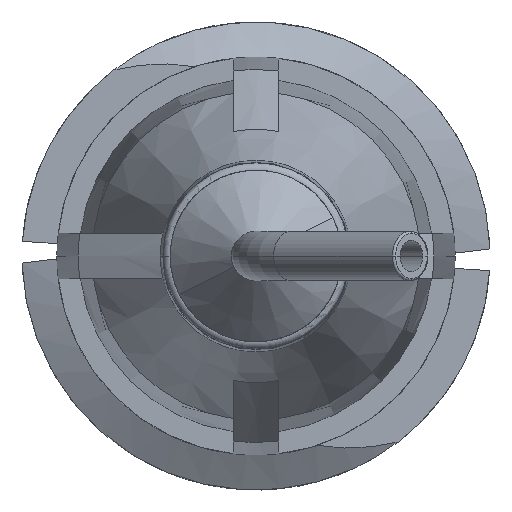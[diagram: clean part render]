
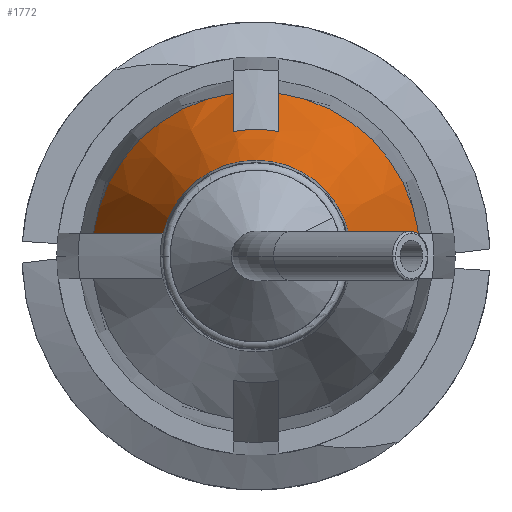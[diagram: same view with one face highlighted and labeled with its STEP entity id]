
A CAD part, front view. The second image highlights one B-rep face of the part: STEP entity #1772.
In plain terms, the highlighted conical face has half-angle 20 degrees and reference radius 2.745 mm.
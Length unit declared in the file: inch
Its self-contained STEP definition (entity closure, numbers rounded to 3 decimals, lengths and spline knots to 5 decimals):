
#18 = CONICAL_SURFACE ( 'NONE', #4683, 0.10808, 0.349 ) ;
#111 = B_SPLINE_CURVE_WITH_KNOTS ( 'NONE', 3,
 ( #3627, #1119, #1428, #1837 ),
 .UNSPECIFIED., .F., .F.,
 ( 4, 4 ),
 ( 0.00343, 0.00527 ),
 .UNSPECIFIED. ) ;
#212 = CARTESIAN_POINT ( 'NONE',  ( 0.09185, -0.44732, 0.015 ) ) ;
#215 = CIRCLE ( 'NONE', #4729, 0.10808 ) ;
#228 = ORIENTED_EDGE ( 'NONE', *, *, #1013, .F. ) ;
#248 = CARTESIAN_POINT ( 'NONE',  ( -0.015, -0.47395, 0.08198 ) ) ;
#252 = DIRECTION ( 'NONE',  ( -1., 0., 0. ) ) ;
#370 = CARTESIAN_POINT ( 'NONE',  ( -0.10703, -0.406, 0.015 ) ) ;
#373 = AXIS2_PLACEMENT_3D ( 'NONE', #2130, #1100, #3310 ) ;
#568 = AXIS2_PLACEMENT_3D ( 'NONE', #1761, #607, #4603 ) ;
#571 = CARTESIAN_POINT ( 'NONE',  ( 0.06119, -0.52985, 0.015 ) ) ;
#590 = CARTESIAN_POINT ( 'NONE',  ( 0.07664, -0.48863, 0.015 ) ) ;
#601 = DIRECTION ( 'NONE',  ( 0., 1., 0. ) ) ;
#607 = DIRECTION ( 'NONE',  ( 0., 1., 0. ) ) ;
#668 = CARTESIAN_POINT ( 'NONE',  ( -0.06119, -0.52985, 0.015 ) ) ;
#677 = CARTESIAN_POINT ( 'NONE',  ( -0.015, -0.406, 0.10703 ) ) ;
#678 = ORIENTED_EDGE ( 'NONE', *, *, #2118, .F. ) ;
#743 = CARTESIAN_POINT ( 'NONE',  ( 0.06119, -0.52985, 0.015 ) ) ;
#775 = CARTESIAN_POINT ( 'NONE',  ( 0.015, -0.42866, 0.0987 ) ) ;
#792 = CIRCLE ( 'NONE', #568, 0.08335 ) ;
#994 = CARTESIAN_POINT ( 'NONE',  ( 0.015, -0.47395, 0.08198 ) ) ;
#1013 = EDGE_CURVE ( 'NONE', #1844, #2535, #215, .T. ) ;
#1100 = DIRECTION ( 'NONE',  ( 0., 1., 0. ) ) ;
#1119 = CARTESIAN_POINT ( 'NONE',  ( -0.015, -0.42866, 0.0987 ) ) ;
#1190 = CARTESIAN_POINT ( 'NONE',  ( 0.10703, -0.406, 0.015 ) ) ;
#1284 = CARTESIAN_POINT ( 'NONE',  ( -0.06119, -0.52985, 0.015 ) ) ;
#1407 = DIRECTION ( 'NONE',  ( 0., 1., 0. ) ) ;
#1428 = CARTESIAN_POINT ( 'NONE',  ( -0.015, -0.45131, 0.09036 ) ) ;
#1510 = CARTESIAN_POINT ( 'NONE',  ( -0.09185, -0.44732, 0.015 ) ) ;
#1526 = B_SPLINE_CURVE_WITH_KNOTS ( 'NONE', 3,
 ( #668, #3942, #1510, #2972 ),
 .UNSPECIFIED., .F., .F.,
 ( 4, 4 ),
 ( 0.00282, 0.00617 ),
 .UNSPECIFIED. ) ;
#1745 = DIRECTION ( 'NONE',  ( 0., 1., 0. ) ) ;
#1760 = CARTESIAN_POINT ( 'NONE',  ( 0.015, -0.47395, 0.08198 ) ) ;
#1761 = CARTESIAN_POINT ( 'NONE',  ( 0., -0.47395, 0. ) ) ;
#1772 = ADVANCED_FACE ( 'NONE', ( #2329 ), #18, .T. ) ;
#1837 = CARTESIAN_POINT ( 'NONE',  ( -0.015, -0.47395, 0.08198 ) ) ;
#1844 = VERTEX_POINT ( 'NONE', #370 ) ;
#2118 = EDGE_CURVE ( 'NONE', #2442, #3405, #792, .T. ) ;
#2130 = CARTESIAN_POINT ( 'NONE',  ( 0., -0.52985, 0. ) ) ;
#2230 = B_SPLINE_CURVE_WITH_KNOTS ( 'NONE', 3,
 ( #571, #590, #212, #3130 ),
 .UNSPECIFIED., .F., .F.,
 ( 4, 4 ),
 ( 0.00282, 0.00617 ),
 .UNSPECIFIED. ) ;
#2329 = FACE_OUTER_BOUND ( 'NONE', #2806, .T. ) ;
#2368 = EDGE_CURVE ( 'NONE', #3428, #4462, #2230, .T. ) ;
#2378 = VERTEX_POINT ( 'NONE', #2704 ) ;
#2442 = VERTEX_POINT ( 'NONE', #248 ) ;
#2464 = DIRECTION ( 'NONE',  ( -1., 0., 0. ) ) ;
#2484 = VERTEX_POINT ( 'NONE', #1284 ) ;
#2535 = VERTEX_POINT ( 'NONE', #677 ) ;
#2704 = CARTESIAN_POINT ( 'NONE',  ( 0.015, -0.406, 0.10703 ) ) ;
#2806 = EDGE_LOOP ( 'NONE', ( #4595, #4583, #2905, #4647, #4036, #678, #3018, #228 ) ) ;
#2882 = EDGE_CURVE ( 'NONE', #3405, #2378, #3990, .T. ) ;
#2905 = ORIENTED_EDGE ( 'NONE', *, *, #2368, .T. ) ;
#2942 = EDGE_CURVE ( 'NONE', #2484, #1844, #1526, .T. ) ;
#2972 = CARTESIAN_POINT ( 'NONE',  ( -0.10703, -0.406, 0.015 ) ) ;
#3018 = ORIENTED_EDGE ( 'NONE', *, *, #3343, .F. ) ;
#3130 = CARTESIAN_POINT ( 'NONE',  ( 0.10703, -0.406, 0.015 ) ) ;
#3310 = DIRECTION ( 'NONE',  ( -1., 0., 0. ) ) ;
#3339 = CARTESIAN_POINT ( 'NONE',  ( 0.015, -0.45131, 0.09036 ) ) ;
#3343 = EDGE_CURVE ( 'NONE', #2535, #2442, #111, .T. ) ;
#3405 = VERTEX_POINT ( 'NONE', #1760 ) ;
#3428 = VERTEX_POINT ( 'NONE', #743 ) ;
#3500 = CIRCLE ( 'NONE', #373, 0.063 ) ;
#3513 = DIRECTION ( 'NONE',  ( -1., 0., 0. ) ) ;
#3520 = CARTESIAN_POINT ( 'NONE',  ( 0., -0.406, 0. ) ) ;
#3523 = CARTESIAN_POINT ( 'NONE',  ( 0., -0.406, 0. ) ) ;
#3627 = CARTESIAN_POINT ( 'NONE',  ( -0.015, -0.406, 0.10703 ) ) ;
#3649 = CIRCLE ( 'NONE', #4347, 0.10808 ) ;
#3737 = EDGE_CURVE ( 'NONE', #2484, #3428, #3500, .T. ) ;
#3905 = CARTESIAN_POINT ( 'NONE',  ( 0., -0.406, 0. ) ) ;
#3942 = CARTESIAN_POINT ( 'NONE',  ( -0.07664, -0.48863, 0.015 ) ) ;
#3990 = B_SPLINE_CURVE_WITH_KNOTS ( 'NONE', 3,
 ( #994, #3339, #775, #4323 ),
 .UNSPECIFIED., .F., .F.,
 ( 4, 4 ),
 ( 0.00247, 0.00431 ),
 .UNSPECIFIED. ) ;
#4005 = EDGE_CURVE ( 'NONE', #2378, #4462, #3649, .T. ) ;
#4036 = ORIENTED_EDGE ( 'NONE', *, *, #2882, .F. ) ;
#4323 = CARTESIAN_POINT ( 'NONE',  ( 0.015, -0.406, 0.10703 ) ) ;
#4347 = AXIS2_PLACEMENT_3D ( 'NONE', #3905, #601, #3513 ) ;
#4462 = VERTEX_POINT ( 'NONE', #1190 ) ;
#4583 = ORIENTED_EDGE ( 'NONE', *, *, #3737, .T. ) ;
#4595 = ORIENTED_EDGE ( 'NONE', *, *, #2942, .F. ) ;
#4603 = DIRECTION ( 'NONE',  ( 1., 0., 0. ) ) ;
#4647 = ORIENTED_EDGE ( 'NONE', *, *, #4005, .F. ) ;
#4683 = AXIS2_PLACEMENT_3D ( 'NONE', #3523, #1407, #2464 ) ;
#4729 = AXIS2_PLACEMENT_3D ( 'NONE', #3520, #1745, #252 ) ;
